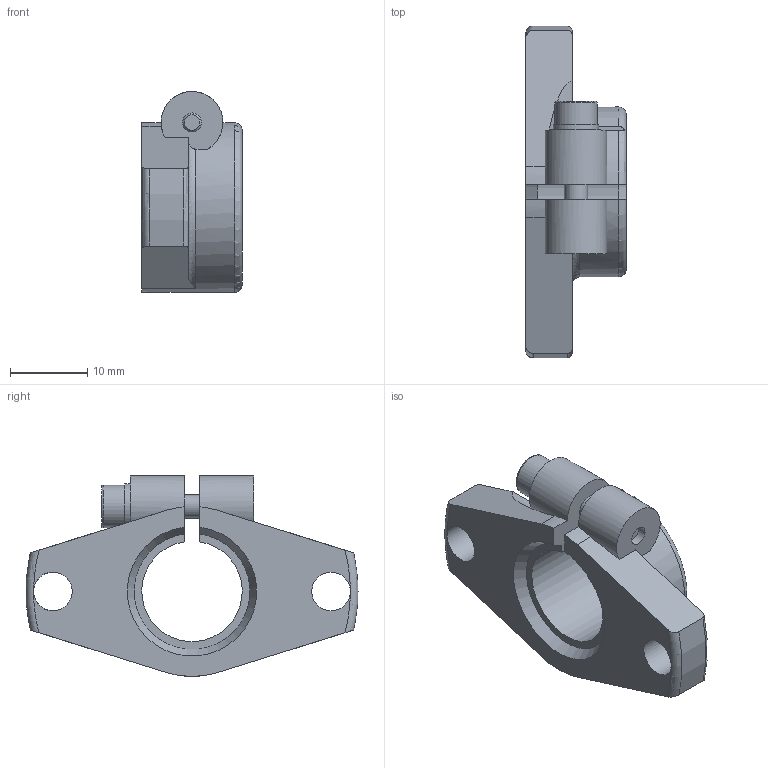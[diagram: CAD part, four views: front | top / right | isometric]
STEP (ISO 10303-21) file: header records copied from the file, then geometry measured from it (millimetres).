
FILE_DESCRIPTION((''),'2;1');
FILE_NAME('D:\製品 (図面)\カタログ用3D\シャフトブロック関連\STEP形式\SF\SF13.stp','2010-06-01T16:24:38',('Tsuchiya'),(''),'Autodesk Inventor 10','Autodesk Inventor 10','');
FILE_SCHEMA(('AUTOMOTIVE_DESIGN { 1 0 10303 214 1 1 1 1 }'));
Length unit declared in the file: millimetre
Products named in the file (1): SF13
Bounding box: 13 x 42.96 x 26 mm (x, y, z)
Volume: 5130.8 mm3; surface area: 3314.5 mm2
Topology: 1 solids, 1 shells, 54 faces, 147 edges, 97 vertices
Faces by surface type: plane 25, cylinder 15, torus 6, cone 4, bspline 4
Full cylindrical faces by diameter (mm): 3 x1, 5 x2, 5.5 x1, 5.9 x1
Entity records: 1974 total; most frequent: CARTESIAN_POINT 691, ORIENTED_EDGE 262, DIRECTION 252, EDGE_CURVE 131, AXIS2_PLACEMENT_3D 101, VERTEX_POINT 91, EDGE_LOOP 72, FACE_OUTER_BOUND 54
